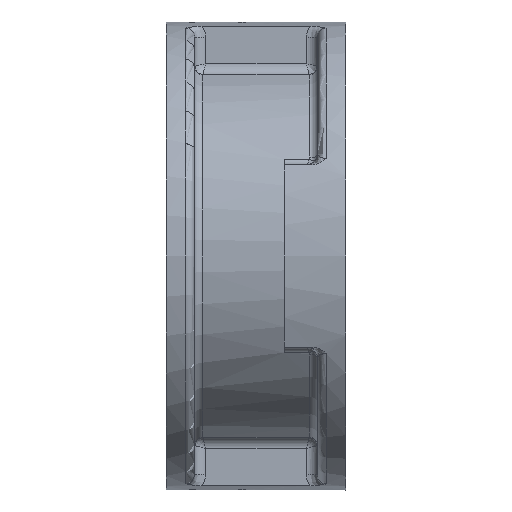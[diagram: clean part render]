
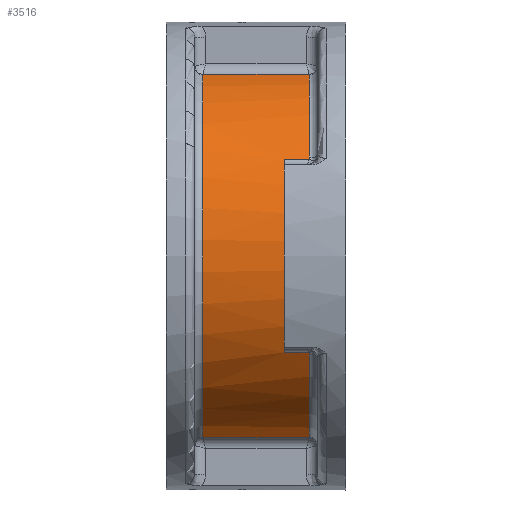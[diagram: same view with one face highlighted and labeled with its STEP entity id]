
A CAD part, left-side view. The second image highlights one B-rep face of the part: STEP entity #3516.
In plain terms, the highlighted cylindrical face has radius 67.5 mm (diameter 135 mm), a partial arc.
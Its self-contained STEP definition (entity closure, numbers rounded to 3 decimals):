
#123 = VERTEX_POINT ( 'NONE', #1417 ) ;
#231 = DIRECTION ( 'NONE',  ( 0., -1., 0. ) ) ;
#260 = ORIENTED_EDGE ( 'NONE', *, *, #1635, .F. ) ;
#281 = EDGE_CURVE ( 'NONE', #7481, #3319, #1220, .T. ) ;
#296 = DIRECTION ( 'NONE',  ( 0., 1., 0. ) ) ;
#396 = CARTESIAN_POINT ( 'NONE',  ( 3379.652, 1474.103, -64.739 ) ) ;
#435 = B_SPLINE_CURVE_WITH_KNOTS ( 'NONE', 3,
 ( #7107, #3801, #6454, #8338 ),
 .UNSPECIFIED., .F., .F.,
 ( 4, 4 ),
 ( 0., 0.001 ),
 .UNSPECIFIED. ) ;
#458 = LINE ( 'NONE', #4903, #4001 ) ;
#536 = CYLINDRICAL_SURFACE ( 'NONE', #2312, 67.5 ) ;
#592 = VERTEX_POINT ( 'NONE', #6479 ) ;
#600 = CARTESIAN_POINT ( 'NONE',  ( 3398.759, 1474.103, 0. ) ) ;
#653 = VECTOR ( 'NONE', #231, 1000. ) ;
#663 = DIRECTION ( 'NONE',  ( 0., 1., 0. ) ) ;
#670 = CARTESIAN_POINT ( 'NONE',  ( 3379.833, 1474.117, 64.792 ) ) ;
#778 = CARTESIAN_POINT ( 'NONE',  ( 3379.832, 1512.09, 64.792 ) ) ;
#1010 = CARTESIAN_POINT ( 'NONE',  ( 3340.716, 1483.103, 34.458 ) ) ;
#1024 = DIRECTION ( 'NONE',  ( 0., -1., 0. ) ) ;
#1061 = VECTOR ( 'NONE', #5514, 1000. ) ;
#1176 = EDGE_CURVE ( 'NONE', #2663, #3685, #3515, .T. ) ;
#1198 = CARTESIAN_POINT ( 'NONE',  ( 3379.919, 1512.064, -64.818 ) ) ;
#1220 = CIRCLE ( 'NONE', #4260, 67.5 ) ;
#1229 = AXIS2_PLACEMENT_3D ( 'NONE', #1841, #5945, #8494 ) ;
#1239 = EDGE_CURVE ( 'NONE', #3685, #4741, #435, .T. ) ;
#1417 = CARTESIAN_POINT ( 'NONE',  ( 3379.919, 1474.143, -64.818 ) ) ;
#1467 = VERTEX_POINT ( 'NONE', #396 ) ;
#1514 = CARTESIAN_POINT ( 'NONE',  ( 3379.652, 1512.103, -64.739 ) ) ;
#1605 = B_SPLINE_CURVE_WITH_KNOTS ( 'NONE', 3,
 ( #3318, #2026, #670, #7246 ),
 .UNSPECIFIED., .F., .F.,
 ( 4, 4 ),
 ( 0., 0. ),
 .UNSPECIFIED. ) ;
#1635 = EDGE_CURVE ( 'NONE', #2663, #592, #4248, .T. ) ;
#1841 = CARTESIAN_POINT ( 'NONE',  ( 3398.759, 1483.103, 0. ) ) ;
#1879 = ORIENTED_EDGE ( 'NONE', *, *, #1239, .T. ) ;
#1921 = CARTESIAN_POINT ( 'NONE',  ( 3341.009, 1474.103, -34.947 ) ) ;
#2013 = CIRCLE ( 'NONE', #2373, 67.5 ) ;
#2026 = CARTESIAN_POINT ( 'NONE',  ( 3379.743, 1474.103, 64.766 ) ) ;
#2074 = ORIENTED_EDGE ( 'NONE', *, *, #6825, .T. ) ;
#2139 = VERTEX_POINT ( 'NONE', #1198 ) ;
#2171 = ORIENTED_EDGE ( 'NONE', *, *, #5562, .T. ) ;
#2300 = CARTESIAN_POINT ( 'NONE',  ( 3379.743, 1512.103, -64.766 ) ) ;
#2312 = AXIS2_PLACEMENT_3D ( 'NONE', #8581, #6171, #6078 ) ;
#2373 = AXIS2_PLACEMENT_3D ( 'NONE', #2556, #663, #5350 ) ;
#2439 = EDGE_CURVE ( 'NONE', #1467, #2689, #2013, .T. ) ;
#2454 = LINE ( 'NONE', #3053, #653 ) ;
#2556 = CARTESIAN_POINT ( 'NONE',  ( 3398.759, 1474.103, 0. ) ) ;
#2570 = EDGE_LOOP ( 'NONE', ( #4596, #1879, #2609, #6319, #5319, #6841, #5156, #2074, #7551, #3718, #4048, #2917, #2171, #260 ) ) ;
#2609 = ORIENTED_EDGE ( 'NONE', *, *, #3479, .T. ) ;
#2663 = VERTEX_POINT ( 'NONE', #1010 ) ;
#2689 = VERTEX_POINT ( 'NONE', #5714 ) ;
#2811 = EDGE_CURVE ( 'NONE', #7454, #7182, #2848, .T. ) ;
#2839 = CIRCLE ( 'NONE', #4996, 67.5 ) ;
#2848 = LINE ( 'NONE', #2852, #1061 ) ;
#2852 = CARTESIAN_POINT ( 'NONE',  ( 3379.919, 1530.448, 64.818 ) ) ;
#2901 = CARTESIAN_POINT ( 'NONE',  ( 3379.743, 1512.103, 64.766 ) ) ;
#2913 = CARTESIAN_POINT ( 'NONE',  ( 3379.919, 1512.064, -64.818 ) ) ;
#2917 = ORIENTED_EDGE ( 'NONE', *, *, #4130, .T. ) ;
#2956 = B_SPLINE_CURVE_WITH_KNOTS ( 'NONE', 3,
 ( #5112, #4465, #7792, #7733 ),
 .UNSPECIFIED., .F., .F.,
 ( 4, 4 ),
 ( 0., 0. ),
 .UNSPECIFIED. ) ;
#3053 = CARTESIAN_POINT ( 'NONE',  ( 3379.919, 1530.448, -64.818 ) ) ;
#3184 = CARTESIAN_POINT ( 'NONE',  ( 3340.716, 1474.244, -34.458 ) ) ;
#3318 = CARTESIAN_POINT ( 'NONE',  ( 3379.652, 1474.103, 64.739 ) ) ;
#3319 = VERTEX_POINT ( 'NONE', #3850 ) ;
#3479 = EDGE_CURVE ( 'NONE', #4741, #7269, #2839, .T. ) ;
#3515 = LINE ( 'NONE', #4906, #8063 ) ;
#3516 = ADVANCED_FACE ( 'NONE', ( #6491 ), #536, .T. ) ;
#3630 = B_SPLINE_CURVE_WITH_KNOTS ( 'NONE', 3,
 ( #7599, #2300, #4914, #2913 ),
 .UNSPECIFIED., .F., .F.,
 ( 4, 4 ),
 ( 0., 0. ),
 .UNSPECIFIED. ) ;
#3685 = VERTEX_POINT ( 'NONE', #4915 ) ;
#3718 = ORIENTED_EDGE ( 'NONE', *, *, #4479, .T. ) ;
#3801 = CARTESIAN_POINT ( 'NONE',  ( 3340.806, 1474.15, 34.609 ) ) ;
#3850 = CARTESIAN_POINT ( 'NONE',  ( 3379.652, 1512.103, 64.739 ) ) ;
#3960 = DIRECTION ( 'NONE',  ( -1., 0., 0. ) ) ;
#4001 = VECTOR ( 'NONE', #296, 1000. ) ;
#4048 = ORIENTED_EDGE ( 'NONE', *, *, #2439, .T. ) ;
#4121 = DIRECTION ( 'NONE',  ( -1., 0., 0. ) ) ;
#4130 = EDGE_CURVE ( 'NONE', #2689, #6312, #8334, .T. ) ;
#4145 = CARTESIAN_POINT ( 'NONE',  ( 3379.919, 1512.064, 64.818 ) ) ;
#4203 = CARTESIAN_POINT ( 'NONE',  ( 3379.652, 1512.103, 64.739 ) ) ;
#4248 = CIRCLE ( 'NONE', #1229, 67.5 ) ;
#4260 = AXIS2_PLACEMENT_3D ( 'NONE', #8087, #4684, #4121 ) ;
#4377 = EDGE_CURVE ( 'NONE', #7269, #7454, #1605, .T. ) ;
#4465 = CARTESIAN_POINT ( 'NONE',  ( 3379.832, 1474.117, -64.792 ) ) ;
#4479 = EDGE_CURVE ( 'NONE', #123, #1467, #2956, .T. ) ;
#4596 = ORIENTED_EDGE ( 'NONE', *, *, #1176, .T. ) ;
#4684 = DIRECTION ( 'NONE',  ( 0., 1., 0. ) ) ;
#4741 = VERTEX_POINT ( 'NONE', #7440 ) ;
#4903 = CARTESIAN_POINT ( 'NONE',  ( 3340.716, 1530.448, -34.458 ) ) ;
#4906 = CARTESIAN_POINT ( 'NONE',  ( 3340.716, 1530.448, 34.458 ) ) ;
#4914 = CARTESIAN_POINT ( 'NONE',  ( 3379.833, 1512.09, -64.792 ) ) ;
#4915 = CARTESIAN_POINT ( 'NONE',  ( 3340.716, 1474.244, 34.458 ) ) ;
#4996 = AXIS2_PLACEMENT_3D ( 'NONE', #600, #5290, #3960 ) ;
#5112 = CARTESIAN_POINT ( 'NONE',  ( 3379.919, 1474.143, -64.818 ) ) ;
#5156 = ORIENTED_EDGE ( 'NONE', *, *, #281, .F. ) ;
#5290 = DIRECTION ( 'NONE',  ( 0., 1., 0. ) ) ;
#5319 = ORIENTED_EDGE ( 'NONE', *, *, #2811, .T. ) ;
#5334 = CARTESIAN_POINT ( 'NONE',  ( 3379.652, 1474.103, 64.739 ) ) ;
#5350 = DIRECTION ( 'NONE',  ( -1., 0., 0. ) ) ;
#5508 = CARTESIAN_POINT ( 'NONE',  ( 3379.919, 1474.143, 64.818 ) ) ;
#5514 = DIRECTION ( 'NONE',  ( 0., 1., 0. ) ) ;
#5521 = EDGE_CURVE ( 'NONE', #2139, #123, #2454, .T. ) ;
#5562 = EDGE_CURVE ( 'NONE', #6312, #592, #458, .T. ) ;
#5714 = CARTESIAN_POINT ( 'NONE',  ( 3341.009, 1474.103, -34.947 ) ) ;
#5945 = DIRECTION ( 'NONE',  ( 0., -1., 0. ) ) ;
#6078 = DIRECTION ( 'NONE',  ( -1., 0., 0. ) ) ;
#6171 = DIRECTION ( 'NONE',  ( 0., 1., 0. ) ) ;
#6312 = VERTEX_POINT ( 'NONE', #8535 ) ;
#6319 = ORIENTED_EDGE ( 'NONE', *, *, #4377, .T. ) ;
#6454 = CARTESIAN_POINT ( 'NONE',  ( 3340.906, 1474.103, 34.777 ) ) ;
#6479 = CARTESIAN_POINT ( 'NONE',  ( 3340.716, 1483.103, -34.458 ) ) ;
#6491 = FACE_OUTER_BOUND ( 'NONE', #2570, .T. ) ;
#6545 = CARTESIAN_POINT ( 'NONE',  ( 3379.919, 1512.064, 64.818 ) ) ;
#6825 = EDGE_CURVE ( 'NONE', #7481, #2139, #3630, .T. ) ;
#6841 = ORIENTED_EDGE ( 'NONE', *, *, #7487, .T. ) ;
#7107 = CARTESIAN_POINT ( 'NONE',  ( 3340.716, 1474.244, 34.458 ) ) ;
#7146 = CARTESIAN_POINT ( 'NONE',  ( 3340.806, 1474.15, -34.609 ) ) ;
#7182 = VERTEX_POINT ( 'NONE', #6545 ) ;
#7246 = CARTESIAN_POINT ( 'NONE',  ( 3379.919, 1474.143, 64.818 ) ) ;
#7269 = VERTEX_POINT ( 'NONE', #5334 ) ;
#7440 = CARTESIAN_POINT ( 'NONE',  ( 3341.009, 1474.103, 34.947 ) ) ;
#7454 = VERTEX_POINT ( 'NONE', #5508 ) ;
#7481 = VERTEX_POINT ( 'NONE', #1514 ) ;
#7487 = EDGE_CURVE ( 'NONE', #7182, #3319, #8273, .T. ) ;
#7551 = ORIENTED_EDGE ( 'NONE', *, *, #5521, .T. ) ;
#7599 = CARTESIAN_POINT ( 'NONE',  ( 3379.652, 1512.103, -64.739 ) ) ;
#7733 = CARTESIAN_POINT ( 'NONE',  ( 3379.652, 1474.103, -64.739 ) ) ;
#7792 = CARTESIAN_POINT ( 'NONE',  ( 3379.743, 1474.103, -64.766 ) ) ;
#7864 = CARTESIAN_POINT ( 'NONE',  ( 3340.906, 1474.103, -34.777 ) ) ;
#8063 = VECTOR ( 'NONE', #1024, 1000. ) ;
#8087 = CARTESIAN_POINT ( 'NONE',  ( 3398.759, 1512.103, 0. ) ) ;
#8273 = B_SPLINE_CURVE_WITH_KNOTS ( 'NONE', 3,
 ( #4145, #778, #2901, #4203 ),
 .UNSPECIFIED., .F., .F.,
 ( 4, 4 ),
 ( 0., 0. ),
 .UNSPECIFIED. ) ;
#8334 = B_SPLINE_CURVE_WITH_KNOTS ( 'NONE', 3,
 ( #1921, #7864, #7146, #3184 ),
 .UNSPECIFIED., .F., .F.,
 ( 4, 4 ),
 ( 0., 0.001 ),
 .UNSPECIFIED. ) ;
#8338 = CARTESIAN_POINT ( 'NONE',  ( 3341.009, 1474.103, 34.947 ) ) ;
#8494 = DIRECTION ( 'NONE',  ( -1., 0., 0. ) ) ;
#8535 = CARTESIAN_POINT ( 'NONE',  ( 3340.716, 1474.244, -34.458 ) ) ;
#8581 = CARTESIAN_POINT ( 'NONE',  ( 3398.759, 1530.448, 0. ) ) ;
